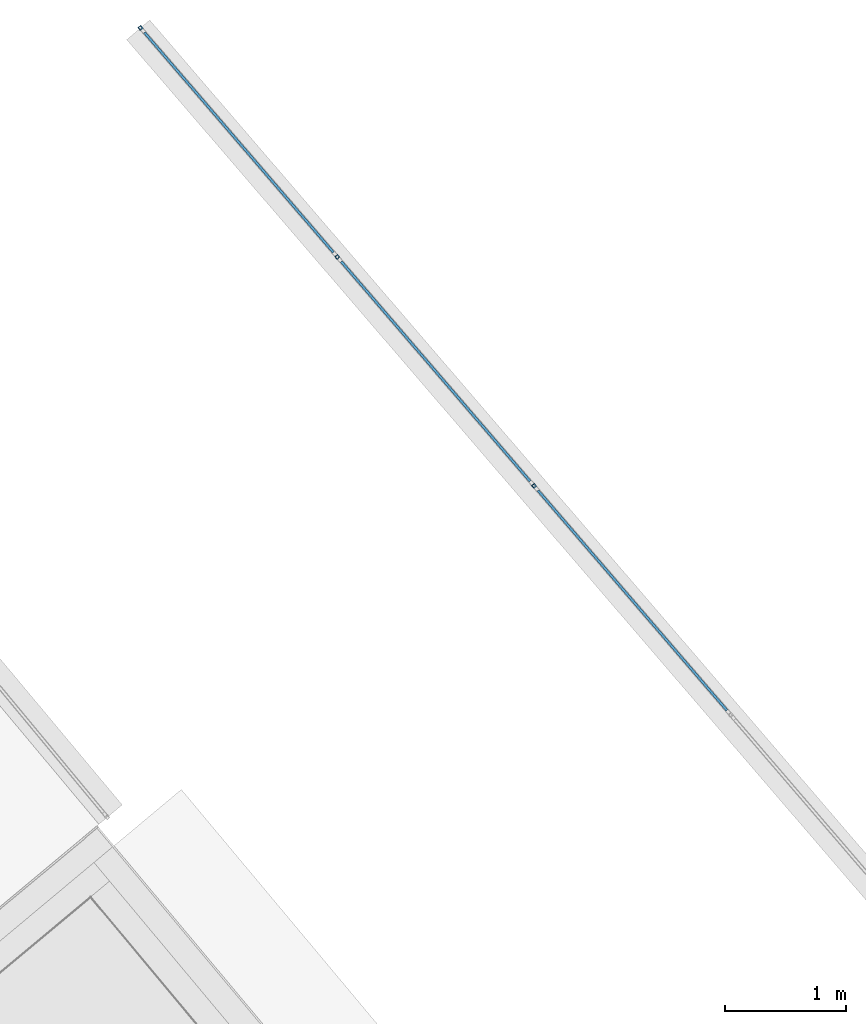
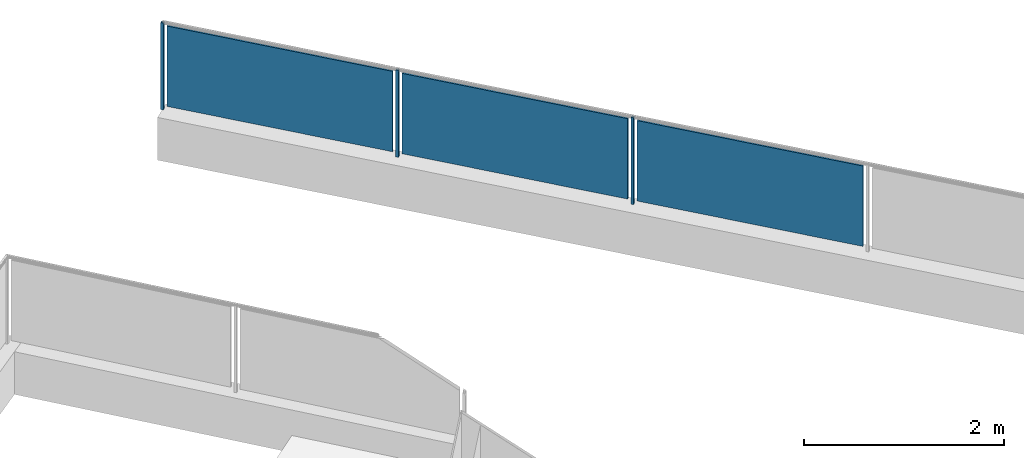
# One storey, part 53 of 67: 6 building element parts, 1 element without a shape of its own.
"""IFC4 building model written with IfcOpenShell, lengths in metres."""

from ifc_helpers import new_model, entity, si_unit, converted_unit, derived_unit, direction, frame, origin_with_axes, place, context, subcontext, project, spatial, polygons, material, type_object, element, aggregate, save


model = new_model("IFC4")

# Units and contexts
model_context = context("Model", 3, precision=1e-05, world=origin_with_axes(), true_north=direction((0.0, 1.0)))
body_context = subcontext(model_context, "Body", "Model", "MODEL_VIEW")
ifc_project = project(units=[si_unit("LENGTHUNIT", "METRE"), si_unit("AREAUNIT", "SQUARE_METRE"), si_unit("VOLUMEUNIT", "CUBIC_METRE"), converted_unit("PLANEANGLEUNIT", "DEGREE", entity("IfcPlaneAngleMeasure", 0.0174532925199), si_unit("PLANEANGLEUNIT", "RADIAN"), dimensions=[0, 0, 0, 0, 0, 0, 0]), converted_unit("TIMEUNIT", "Year", entity("IfcTimeMeasure", 31556926.0), si_unit("TIMEUNIT", "SECOND"), dimensions=[0, 0, 1, 0, 0, 0, 0]), si_unit("MASSUNIT", "GRAM", prefix="KILO"), si_unit("THERMODYNAMICTEMPERATUREUNIT", "DEGREE_CELSIUS"), si_unit("LUMINOUSINTENSITYUNIT", "LUMEN"), si_unit("ENERGYUNIT", "JOULE", prefix="MEGA"), derived_unit("THERMALCONDUCTANCEUNIT", [(si_unit("POWERUNIT", "WATT"), 1), (si_unit("LENGTHUNIT", "METRE"), -1), (si_unit("THERMODYNAMICTEMPERATUREUNIT", "KELVIN"), -1)]), derived_unit("SPECIFICHEATCAPACITYUNIT", [(si_unit("ENERGYUNIT", "JOULE"), 1), (si_unit("MASSUNIT", "GRAM", prefix="KILO"), -1), (si_unit("THERMODYNAMICTEMPERATUREUNIT", "KELVIN"), -1)]), derived_unit("MASSDENSITYUNIT", [(si_unit("MASSUNIT", "GRAM", prefix="KILO"), 1), (si_unit("VOLUMEUNIT", "CUBIC_METRE"), -1)])], contexts=[model_context])

# Site, building, storey
site_placement = place(None, frame((-0.00153261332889, -0.00661245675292, 0.0), z_axis=(0.0, 0.0, 1.0), x_axis=(1.0, 0.0, 0.0)))
site = spatial("IfcSite", under=ifc_project, at=site_placement, Name="Site", CompositionType="ELEMENT")
building_placement = place(site_placement, origin_with_axes())
building = spatial("IfcBuilding", under=site, at=building_placement, Name="Building", CompositionType="ELEMENT")
storey_placement = place(building_placement, frame((0.0, 0.0, -0.22), z_axis=(0.0, 0.0, 1.0), x_axis=(1.0, 0.0, 0.0)))
storey = spatial("IfcBuildingStorey", under=building, at=storey_placement, Name="EG", CompositionType="ELEMENT", Elevation=-0.22)

# Railing, building element parts
railing_type = type_object("IfcRailingType", Name="Geländerart", PredefinedType="NOTDEFINED")
railing_placement = place(storey_placement, frame((-12.1608341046, 23.557810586, 0.523948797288), z_axis=(0.0, 0.0, 1.0), x_axis=(1.0, 0.0, 0.0)))
railing = element("IfcRailing", 1, at=railing_placement, inside=storey, type_object=railing_type, Name="Geländer - 001", PredefinedType="NOTDEFINED")
ifc_material_1 = material(Name="Aluminium")
building_element_part_1_placement = place(railing_placement, origin_with_axes())
building_element_part_1 = element("IfcBuildingElementPart", 2, at=building_element_part_1_placement, material=ifc_material_1, Name="Aluminium", PredefinedType="NOTDEFINED", context=body_context, shape_type="Tessellation", body=[
    polygons([(17.4583632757, 13.4377624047, 0.0), (17.4356091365, 13.4182112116, 0.0), (17.4356091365, 13.4182112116, 1.06), (17.4583632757, 13.4377624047, 1.06), (17.4779144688, 13.4150082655, 0.0), (17.4551603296, 13.3954570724, 0.0), (17.4578294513, 13.430711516, 0.0), (17.4426600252, 13.4176773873, 0.0), (17.4556941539, 13.4025079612, 0.0), (17.47086358, 13.4155420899, 0.0), (17.4551603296, 13.3954570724, 1.06), (17.4779144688, 13.4150082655, 1.06), (17.4578294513, 13.430711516, 1.06), (17.47086358, 13.4155420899, 1.06), (17.4556941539, 13.4025079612, 1.06), (17.4426600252, 13.4176773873, 1.06)], [[[1, 2, 3, 4]], [[1, 5, 6, 2], [7, 8, 9, 10]], [[2, 6, 11, 3]], [[4, 3, 11, 12], [13, 14, 15, 16]], [[5, 1, 4, 12]], [[6, 5, 12, 11]], [[8, 7, 13, 16]], [[9, 8, 16, 15]], [[10, 9, 15, 14]], [[7, 10, 14, 13]]], closed=True),
])
ifc_material_2 = material(Name="Zaun")
building_element_part_2_placement = place(railing_placement, origin_with_axes())
building_element_part_2 = element("IfcBuildingElementPart", 3, at=building_element_part_2_placement, material=ifc_material_2, Name="Zaun", PredefinedType="NOTDEFINED", context=body_context, shape_type="Tessellation", body=[
    polygons([(20.7237481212, 9.59906975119, 0.05), (22.2795703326, 7.78836720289, 0.05), (22.2795703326, 7.78836720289, 1.03), (20.7237481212, 9.59906975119, 1.03), (22.2947397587, 7.80140133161, 0.05), (20.7389175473, 9.61210387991, 0.05), (22.2947397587, 7.80140133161, 1.03), (20.7389175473, 9.61210387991, 1.03)], [[[1, 2, 3, 4]], [[5, 2, 1, 6]], [[7, 3, 2, 5]], [[4, 3, 7, 8]], [[1, 4, 8, 6]], [[7, 5, 6, 8]]], closed=True),
])
building_element_part_3_placement = place(railing_placement, origin_with_axes())
building_element_part_3 = element("IfcBuildingElementPart", 4, at=building_element_part_3_placement, material=ifc_material_1, Name="Aluminium", PredefinedType="NOTDEFINED", context=body_context, shape_type="Tessellation", body=[
    polygons([(20.7003489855, 9.66466304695, 0.0), (20.6775948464, 9.64511185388, 0.0), (20.6775948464, 9.64511185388, 1.06), (20.7003489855, 9.66466304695, 1.06), (20.7199001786, 9.64190890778, 0.0), (20.6971460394, 9.62235771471, 0.0), (20.6998151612, 9.65761215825, 0.0), (20.6846457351, 9.64457802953, 0.0), (20.6976798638, 9.62940860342, 0.0), (20.7128492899, 9.64244273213, 0.0), (20.6971460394, 9.62235771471, 1.06), (20.7199001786, 9.64190890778, 1.06), (20.6998151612, 9.65761215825, 1.06), (20.7128492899, 9.64244273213, 1.06), (20.6976798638, 9.62940860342, 1.06), (20.6846457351, 9.64457802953, 1.06)], [[[1, 2, 3, 4]], [[1, 5, 6, 2], [7, 8, 9, 10]], [[2, 6, 11, 3]], [[4, 3, 11, 12], [13, 14, 15, 16]], [[5, 1, 4, 12]], [[6, 5, 12, 11]], [[8, 7, 13, 16]], [[9, 8, 16, 15]], [[10, 9, 15, 14]], [[7, 10, 14, 13]]], closed=True),
])
building_element_part_4_placement = place(railing_placement, origin_with_axes())
building_element_part_4 = element("IfcBuildingElementPart", 5, at=building_element_part_4_placement, material=ifc_material_2, Name="Zaun", PredefinedType="NOTDEFINED", context=body_context, shape_type="Tessellation", body=[
    polygons([(19.1027552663, 11.4856194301, 0.05), (20.6585774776, 9.67491688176, 0.05), (20.6585774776, 9.67491688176, 1.03), (19.1027552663, 11.4856194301, 1.03), (20.6737469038, 9.68795101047, 0.05), (19.1179246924, 11.4986535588, 0.05), (20.6737469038, 9.68795101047, 1.03), (19.1179246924, 11.4986535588, 1.03)], [[[1, 2, 3, 4]], [[5, 2, 1, 6]], [[7, 3, 2, 5]], [[4, 3, 7, 8]], [[1, 4, 8, 6]], [[7, 5, 6, 8]]], closed=True),
])
building_element_part_5_placement = place(railing_placement, origin_with_axes())
building_element_part_5 = element("IfcBuildingElementPart", 6, at=building_element_part_5_placement, material=ifc_material_1, Name="Aluminium", PredefinedType="NOTDEFINED", context=body_context, shape_type="Tessellation", body=[
    polygons([(19.0793561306, 11.5512127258, 0.0), (19.0566019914, 11.5316615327, 0.0), (19.0566019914, 11.5316615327, 1.06), (19.0793561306, 11.5512127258, 1.06), (19.0989073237, 11.5284585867, 0.0), (19.0761531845, 11.5089073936, 0.0), (19.0788223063, 11.5441618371, 0.0), (19.0636528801, 11.5311277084, 0.0), (19.0766870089, 11.5159582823, 0.0), (19.091856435, 11.528992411, 0.0), (19.0761531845, 11.5089073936, 1.06), (19.0989073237, 11.5284585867, 1.06), (19.0788223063, 11.5441618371, 1.06), (19.091856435, 11.528992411, 1.06), (19.0766870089, 11.5159582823, 1.06), (19.0636528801, 11.5311277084, 1.06)], [[[1, 2, 3, 4]], [[1, 5, 6, 2], [7, 8, 9, 10]], [[2, 6, 11, 3]], [[4, 3, 11, 12], [13, 14, 15, 16]], [[5, 1, 4, 12]], [[6, 5, 12, 11]], [[8, 7, 13, 16]], [[9, 8, 16, 15]], [[10, 9, 15, 14]], [[7, 10, 14, 13]]], closed=True),
])
building_element_part_6_placement = place(railing_placement, origin_with_axes())
building_element_part_6 = element("IfcBuildingElementPart", 7, at=building_element_part_6_placement, material=ifc_material_2, Name="Zaun", PredefinedType="NOTDEFINED", context=body_context, shape_type="Tessellation", body=[
    polygons([(17.4817624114, 13.3721691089, 0.05), (19.0375846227, 11.5614665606, 0.05), (19.0375846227, 11.5614665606, 1.03), (17.4817624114, 13.3721691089, 1.03), (19.0527540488, 11.5745006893, 0.05), (17.4969318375, 13.3852032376, 0.05), (19.0527540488, 11.5745006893, 1.03), (17.4969318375, 13.3852032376, 1.03)], [[[1, 2, 3, 4]], [[5, 2, 1, 6]], [[7, 3, 2, 5]], [[4, 3, 7, 8]], [[1, 4, 8, 6]], [[7, 5, 6, 8]]], closed=True),
])
aggregate(railing, [building_element_part_1, building_element_part_2, building_element_part_3, building_element_part_4, building_element_part_5, building_element_part_6])

save(model, "model.ifc")
